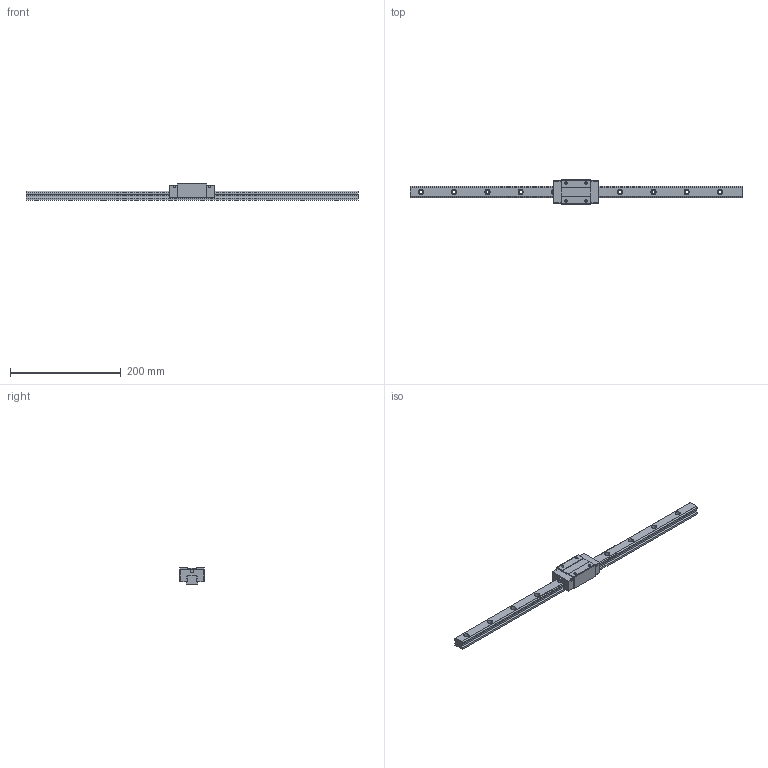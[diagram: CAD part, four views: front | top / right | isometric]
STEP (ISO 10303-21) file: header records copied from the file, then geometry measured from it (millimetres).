
FILE_DESCRIPTION (( 'STEP AP203' ), '1' );
FILE_NAME ('TRH20VN-SU.STEP', '2024-06-26T03:17:27', ( '' ), ( '' ), 'SwSTEP 2.0', 'SolidWorks 2022', '' );
FILE_SCHEMA (( 'CONFIG_CONTROL_DESIGN' ));
Length unit declared in the file: millimetre
Products named in the file (1): TRH20VN-SU
Bounding box: 600 x 44 x 30 mm (x, y, z)
Volume: 235476.6 mm3; surface area: 64987.2 mm2
Topology: 2 solids, 2 shells, 196 faces, 512 edges, 332 vertices
Faces by surface type: cylinder 96, plane 84, cone 16
Entity records: 6127 total; most frequent: DIRECTION 1098, CARTESIAN_POINT 1033, ORIENTED_EDGE 1008, EDGE_CURVE 504, AXIS2_PLACEMENT_3D 397, VERTEX_POINT 332, LINE 304, VECTOR 304
